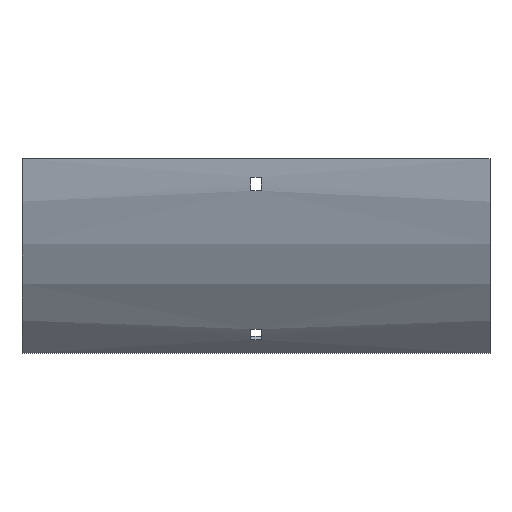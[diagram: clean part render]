
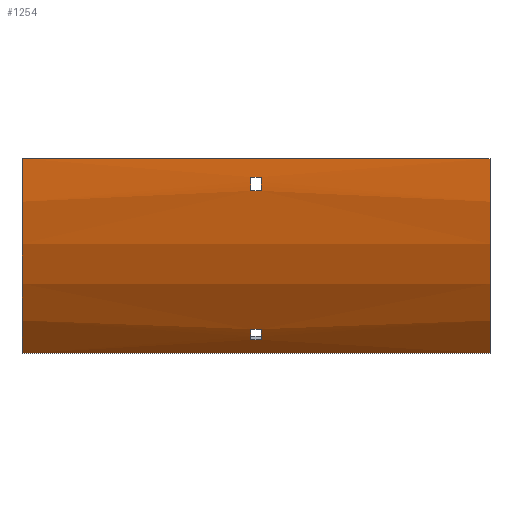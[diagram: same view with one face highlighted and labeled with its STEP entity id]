
A CAD part, front view. The second image highlights one B-rep face of the part: STEP entity #1254.
In plain terms, the highlighted cylindrical face has radius 179 mm (diameter 358 mm), a partial arc.
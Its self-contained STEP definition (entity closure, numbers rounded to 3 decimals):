
#34 = DIRECTION ( 'NONE',  ( 1., 0., 0. ) ) ;
#38 = DIRECTION ( 'NONE',  ( 1., 0., 0. ) ) ;
#70 = AXIS2_PLACEMENT_3D ( 'NONE', #1232, #1488, #323 ) ;
#94 = CARTESIAN_POINT ( 'NONE',  ( 3.25, -40.547, -110.849 ) ) ;
#106 = LINE ( 'NONE', #1676, #1535 ) ;
#148 = CARTESIAN_POINT ( 'NONE',  ( 3.25, 100., 0. ) ) ;
#155 = EDGE_CURVE ( 'NONE', #1230, #810, #1363, .T. ) ;
#189 = EDGE_CURVE ( 'NONE', #458, #534, #561, .T. ) ;
#197 = CARTESIAN_POINT ( 'NONE',  ( 152., -79., 0. ) ) ;
#218 = VERTEX_POINT ( 'NONE', #197 ) ;
#222 = EDGE_CURVE ( 'NONE', #218, #458, #230, .T. ) ;
#223 = ORIENTED_EDGE ( 'NONE', *, *, #897, .T. ) ;
#230 = CIRCLE ( 'NONE', #70, 179. ) ;
#262 = DIRECTION ( 'NONE',  ( 0., 0., 1. ) ) ;
#267 = EDGE_CURVE ( 'NONE', #629, #1418, #1266, .T. ) ;
#272 = AXIS2_PLACEMENT_3D ( 'NONE', #148, #1581, #290 ) ;
#273 = LINE ( 'NONE', #1487, #821 ) ;
#290 = DIRECTION ( 'NONE',  ( 0., 0., -1. ) ) ;
#291 = ORIENTED_EDGE ( 'NONE', *, *, #1326, .F. ) ;
#323 = DIRECTION ( 'NONE',  ( 0., 0., -1. ) ) ;
#330 = ORIENTED_EDGE ( 'NONE', *, *, #474, .T. ) ;
#458 = VERTEX_POINT ( 'NONE', #1451 ) ;
#474 = EDGE_CURVE ( 'NONE', #1418, #1291, #666, .T. ) ;
#490 = CARTESIAN_POINT ( 'NONE',  ( 152., -79., 0. ) ) ;
#495 = DIRECTION ( 'NONE',  ( 1., 0., 0. ) ) ;
#503 = DIRECTION ( 'NONE',  ( 0., 0., 1. ) ) ;
#511 = CYLINDRICAL_SURFACE ( 'NONE', #1285, 179. ) ;
#515 = ORIENTED_EDGE ( 'NONE', *, *, #719, .T. ) ;
#522 = DIRECTION ( 'NONE',  ( -1., 0., 0. ) ) ;
#530 = AXIS2_PLACEMENT_3D ( 'NONE', #841, #1123, #1250 ) ;
#534 = VERTEX_POINT ( 'NONE', #793 ) ;
#543 = ORIENTED_EDGE ( 'NONE', *, *, #189, .F. ) ;
#561 = LINE ( 'NONE', #840, #877 ) ;
#579 = ORIENTED_EDGE ( 'NONE', *, *, #155, .F. ) ;
#629 = VERTEX_POINT ( 'NONE', #1256 ) ;
#666 = LINE ( 'NONE', #686, #800 ) ;
#677 = AXIS2_PLACEMENT_3D ( 'NONE', #727, #495, #1532 ) ;
#686 = CARTESIAN_POINT ( 'NONE',  ( 152., -78.597, -12. ) ) ;
#704 = CARTESIAN_POINT ( 'NONE',  ( -3.25, -40.547, -110.849 ) ) ;
#719 = EDGE_CURVE ( 'NONE', #218, #1176, #1145, .T. ) ;
#727 = CARTESIAN_POINT ( 'NONE',  ( -3.25, 100., 0. ) ) ;
#755 = FACE_BOUND ( 'NONE', #1617, .T. ) ;
#793 = CARTESIAN_POINT ( 'NONE',  ( -152., -26.572, -126.572 ) ) ;
#800 = VECTOR ( 'NONE', #38, 1000. ) ;
#810 = VERTEX_POINT ( 'NONE', #1554 ) ;
#821 = VECTOR ( 'NONE', #1580, 1000. ) ;
#840 = CARTESIAN_POINT ( 'NONE',  ( 152., -26.572, -126.572 ) ) ;
#841 = CARTESIAN_POINT ( 'NONE',  ( -3.25, 100., 0. ) ) ;
#877 = VECTOR ( 'NONE', #1073, 1000. ) ;
#897 = EDGE_CURVE ( 'NONE', #1291, #1267, #1011, .T. ) ;
#900 = CARTESIAN_POINT ( 'NONE',  ( -152., -79., 0. ) ) ;
#919 = ORIENTED_EDGE ( 'NONE', *, *, #267, .T. ) ;
#927 = CARTESIAN_POINT ( 'NONE',  ( 3.25, -78.597, -12. ) ) ;
#987 = EDGE_CURVE ( 'NONE', #1176, #534, #1036, .T. ) ;
#1011 = CIRCLE ( 'NONE', #272, 179. ) ;
#1017 = CARTESIAN_POINT ( 'NONE',  ( -3.25, -34.773, -117.802 ) ) ;
#1025 = CARTESIAN_POINT ( 'NONE',  ( 3.25, -77.764, -21. ) ) ;
#1036 = CIRCLE ( 'NONE', #1666, 179. ) ;
#1041 = CARTESIAN_POINT ( 'NONE',  ( 3.25, 100., 0. ) ) ;
#1051 = CARTESIAN_POINT ( 'NONE',  ( -152., 100., 0. ) ) ;
#1052 = EDGE_LOOP ( 'NONE', ( #1146, #543, #1237, #515 ) ) ;
#1059 = DIRECTION ( 'NONE',  ( 0., 0., -1. ) ) ;
#1073 = DIRECTION ( 'NONE',  ( -1., 0., 0. ) ) ;
#1123 = DIRECTION ( 'NONE',  ( -1., 0., 0. ) ) ;
#1133 = AXIS2_PLACEMENT_3D ( 'NONE', #1041, #1570, #262 ) ;
#1145 = LINE ( 'NONE', #490, #1461 ) ;
#1146 = ORIENTED_EDGE ( 'NONE', *, *, #987, .T. ) ;
#1176 = VERTEX_POINT ( 'NONE', #900 ) ;
#1198 = EDGE_CURVE ( 'NONE', #1267, #629, #106, .T. ) ;
#1230 = VERTEX_POINT ( 'NONE', #1017 ) ;
#1232 = CARTESIAN_POINT ( 'NONE',  ( 152., 100., 0. ) ) ;
#1237 = ORIENTED_EDGE ( 'NONE', *, *, #222, .F. ) ;
#1239 = ORIENTED_EDGE ( 'NONE', *, *, #1198, .T. ) ;
#1250 = DIRECTION ( 'NONE',  ( 0., 0., 1. ) ) ;
#1254 = ADVANCED_FACE ( 'NONE', ( #1685, #755, #1396 ), #511, .T. ) ;
#1256 = CARTESIAN_POINT ( 'NONE',  ( -3.25, -77.764, -21. ) ) ;
#1259 = CARTESIAN_POINT ( 'NONE',  ( -3.25, -78.597, -12. ) ) ;
#1266 = CIRCLE ( 'NONE', #530, 179. ) ;
#1267 = VERTEX_POINT ( 'NONE', #1025 ) ;
#1285 = AXIS2_PLACEMENT_3D ( 'NONE', #1553, #1389, #503 ) ;
#1291 = VERTEX_POINT ( 'NONE', #927 ) ;
#1297 = ORIENTED_EDGE ( 'NONE', *, *, #1481, .F. ) ;
#1326 = EDGE_CURVE ( 'NONE', #1446, #1615, #273, .T. ) ;
#1328 = EDGE_CURVE ( 'NONE', #810, #1446, #1337, .T. ) ;
#1337 = CIRCLE ( 'NONE', #1133, 179. ) ;
#1344 = ORIENTED_EDGE ( 'NONE', *, *, #1328, .F. ) ;
#1363 = LINE ( 'NONE', #1604, #1622 ) ;
#1389 = DIRECTION ( 'NONE',  ( -1., 0., 0. ) ) ;
#1396 = FACE_BOUND ( 'NONE', #1638, .T. ) ;
#1418 = VERTEX_POINT ( 'NONE', #1259 ) ;
#1446 = VERTEX_POINT ( 'NONE', #94 ) ;
#1451 = CARTESIAN_POINT ( 'NONE',  ( 152., -26.572, -126.572 ) ) ;
#1461 = VECTOR ( 'NONE', #522, 1000. ) ;
#1481 = EDGE_CURVE ( 'NONE', #1615, #1230, #1607, .T. ) ;
#1487 = CARTESIAN_POINT ( 'NONE',  ( 152., -40.547, -110.849 ) ) ;
#1488 = DIRECTION ( 'NONE',  ( 1., 0., 0. ) ) ;
#1515 = DIRECTION ( 'NONE',  ( -1., 0., 0. ) ) ;
#1532 = DIRECTION ( 'NONE',  ( 0., 0., -1. ) ) ;
#1535 = VECTOR ( 'NONE', #1515, 1000. ) ;
#1553 = CARTESIAN_POINT ( 'NONE',  ( 152., 100., 0. ) ) ;
#1554 = CARTESIAN_POINT ( 'NONE',  ( 3.25, -34.773, -117.802 ) ) ;
#1570 = DIRECTION ( 'NONE',  ( -1., 0., 0. ) ) ;
#1572 = DIRECTION ( 'NONE',  ( 1., 0., 0. ) ) ;
#1580 = DIRECTION ( 'NONE',  ( -1., 0., 0. ) ) ;
#1581 = DIRECTION ( 'NONE',  ( 1., 0., 0. ) ) ;
#1604 = CARTESIAN_POINT ( 'NONE',  ( 152., -34.773, -117.802 ) ) ;
#1607 = CIRCLE ( 'NONE', #677, 179. ) ;
#1615 = VERTEX_POINT ( 'NONE', #704 ) ;
#1617 = EDGE_LOOP ( 'NONE', ( #1239, #919, #330, #223 ) ) ;
#1622 = VECTOR ( 'NONE', #34, 1000. ) ;
#1638 = EDGE_LOOP ( 'NONE', ( #1297, #291, #1344, #579 ) ) ;
#1666 = AXIS2_PLACEMENT_3D ( 'NONE', #1051, #1572, #1059 ) ;
#1676 = CARTESIAN_POINT ( 'NONE',  ( 152., -77.764, -21. ) ) ;
#1685 = FACE_OUTER_BOUND ( 'NONE', #1052, .T. ) ;
